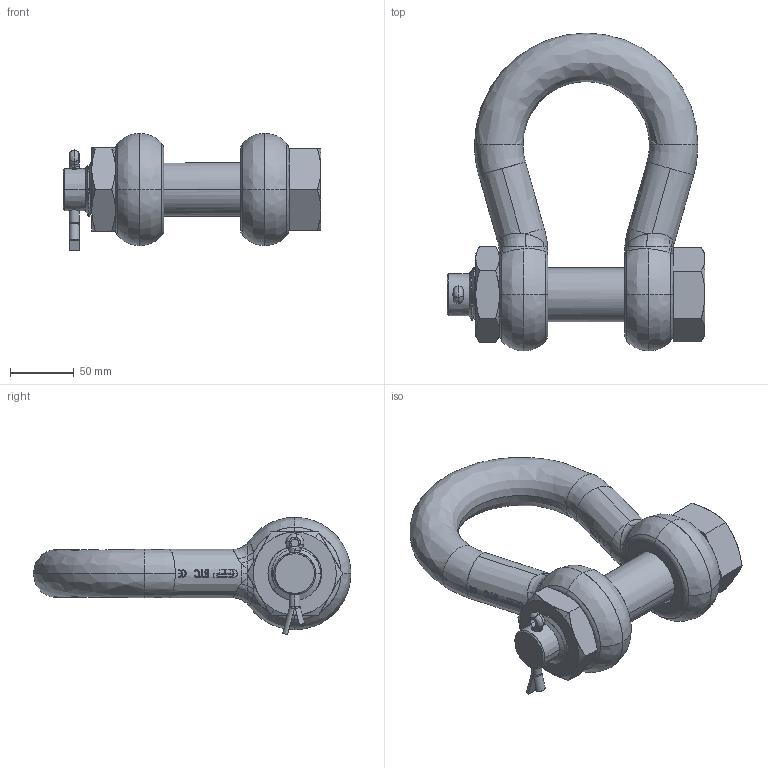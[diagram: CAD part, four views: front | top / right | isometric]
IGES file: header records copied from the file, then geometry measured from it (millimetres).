
Start section: START RECORD GO HERE.
Global section: file name: POGHMB38.igs; native system: Solidworks 2009                             ; preprocessor: Solidworks                 ; author: v.b.; organization: P4; date: 20090826.095330; units: millimetre
Bounding box: 202 x 249 x 91.86 mm (x, y, z)
Surface area: 138746.2 mm2 (no closed solid volume)
Topology: 0 solids, 0 shells, 789 faces, 4889 edges, 4881 vertices
Faces by surface type: bspline 311, plane 302, revolution 176
